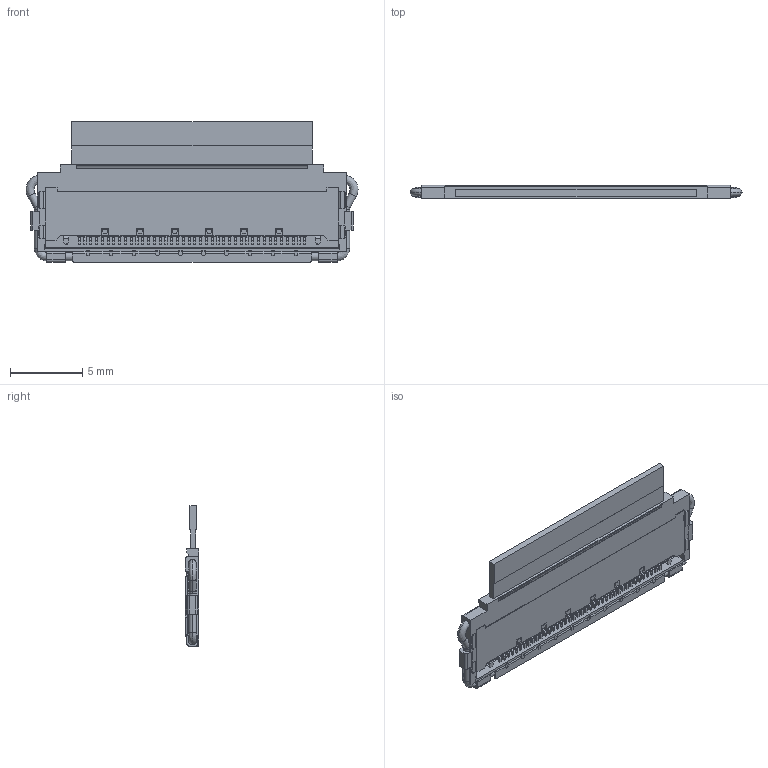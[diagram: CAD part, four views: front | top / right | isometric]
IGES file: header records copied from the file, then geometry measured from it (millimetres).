
Start section: SolidWorks IGES file using analytic representation for surfaces
Global section: file name: C:\3dwork\watanabe\20221102 CABLINE－CAII F中埋めモデル\提出用\20682-040E-02 + 20856-040T-01 MATING IGES R1R3 ALL.IGS; native system: SolidWorks 2020; preprocessor: SolidWorks 2020; author: E1480; date: 221104.185604; units: millimetre
Bounding box: 22.95 x 0.96 x 9.7 mm (x, y, z)
Surface area: 538 mm2 (no closed solid volume)
Topology: 0 solids, 0 shells, 1325 faces, 9064 edges, 9064 vertices
Faces by surface type: bspline 969, revolution 356
